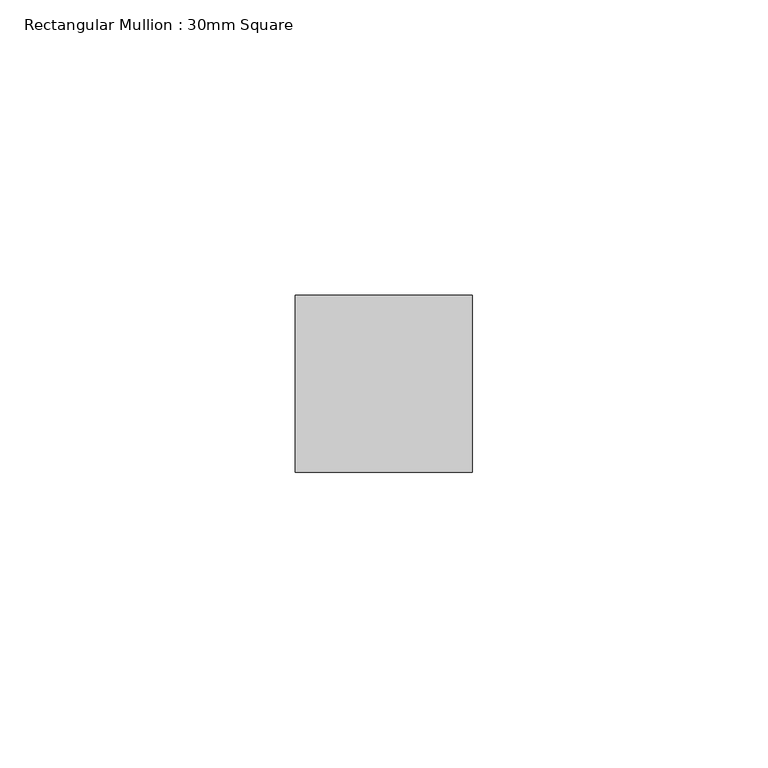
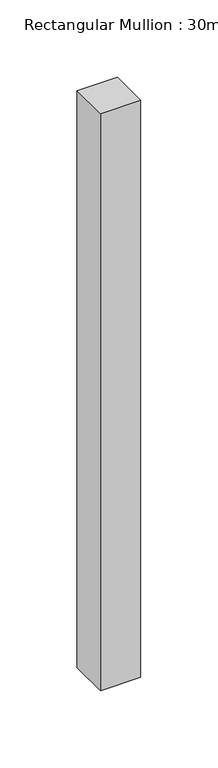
"""IFC4 building model written with IfcOpenShell, lengths in millimetres: member geometry, Rectangular Mullion : 30mm Square."""

from ifc_helpers import new_model, si_unit, frame, origin, place, context, project, spatial, polyline, outline, extrude, source, transform, mapped, element, save


def rectangular_mullion_30mm_square_6f9549be(model_context):
    return source(origin(), model_context, "Body", "SweptSolid", [
        extrude(outline(polyline([(0.0, 15.0), (0.0, -15.0), (-30.0, -15.0), (-30.0, 15.0), (0.0, 15.0)])), frame((0.0, 0.0, -455.0), z_axis=(0.0, 0.0, 1.0), x_axis=(1.0, 0.0, 0.0)), (0.0, 0.0, 1.0), 455.0),
    ])


if __name__ == "__main__":
    model = new_model("IFC4")
    model_context = context("Model", 3, world=origin())
    ifc_project = project(units=[si_unit("LENGTHUNIT", "METRE", prefix="MILLI")], contexts=[model_context])
    site = spatial("IfcSite", under=ifc_project)
    building = spatial("IfcBuilding", under=site)
    placement = place(None, origin())
    rectangular_mullion_30mm_square_shape = rectangular_mullion_30mm_square_6f9549be(model_context)
    element("IfcMember", 1, ObjectType="Rectangular Mullion : 30mm Square", at=placement, inside=building, context=model_context, shape_type="MappedRepresentation", body=[
        mapped(rectangular_mullion_30mm_square_shape, transform((0.0, 0.0, 0.0), x_axis=(1.0, 0.0, 0.0), y_axis=(0.0, 1.0, 0.0), z_axis=(0.0, 0.0, 1.0))),
    ])
    save(model, "model.ifc")
